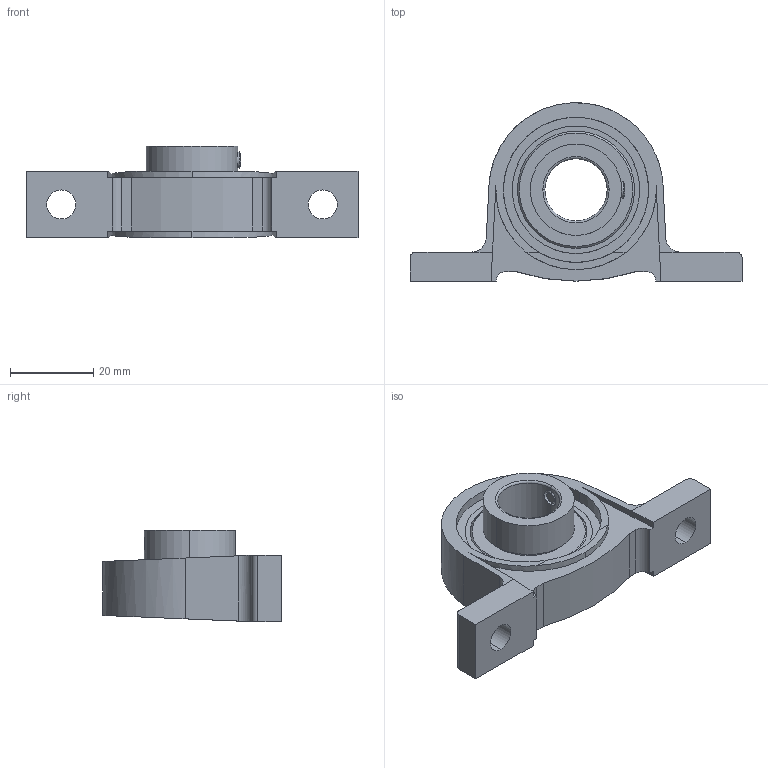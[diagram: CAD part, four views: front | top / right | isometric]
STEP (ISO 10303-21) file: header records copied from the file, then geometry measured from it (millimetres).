
FILE_DESCRIPTION (( 'STEP AP214' ), '1' );
FILE_NAME ('4.0014 Laakeri USBP 002 JIB.STEP', '2025-09-24T07:32:22', ( '' ), ( '' ), 'SwSTEP 2.0', 'SolidWorks 2025', '' );
FILE_SCHEMA (( 'AUTOMOTIVE_DESIGN' ));
Length unit declared in the file: millimetre
Products named in the file (1): 4.0014 Laakeri USBP 002 JIB
Bounding box: 80 x 42.97 x 22 mm (x, y, z)
Volume: 20339 mm3; surface area: 14447.5 mm2
Topology: 2 solids, 2 shells, 211 faces, 645 edges, 416 vertices
Faces by surface type: sphere 56, cylinder 52, torus 48, plane 45, cone 10
Entity records: 14670 total; most frequent: CARTESIAN_POINT 9059, ORIENTED_EDGE 1272, DIRECTION 1040, EDGE_CURVE 636, AXIS2_PLACEMENT_3D 448, VERTEX_POINT 413, EDGE_LOOP 255, B_SPLINE_CURVE_WITH_KNOTS 240
